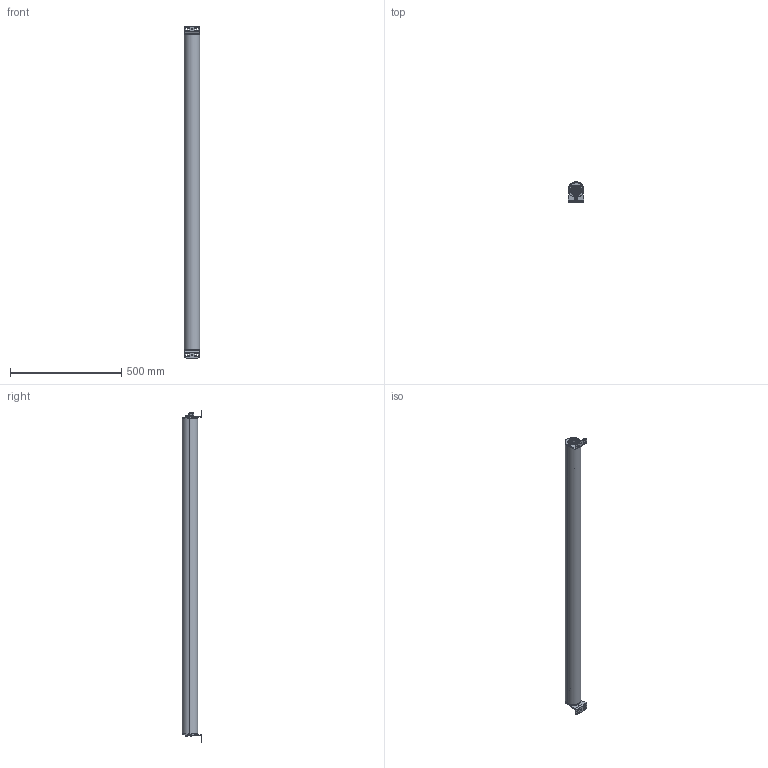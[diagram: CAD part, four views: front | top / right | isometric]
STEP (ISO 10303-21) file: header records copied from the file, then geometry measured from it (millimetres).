
FILE_DESCRIPTION((''),'2;1');
FILE_NAME('2009407_ASM','2020-12-04T13:56:43',('j.rink'),(''),'CREO PARAMETRIC BY PTC INC, 2019292','CREO PARAMETRIC BY PTC INC, 2019292','');
FILE_SCHEMA(('AUTOMOTIVE_DESIGN { 1 0 10303 214 1 1 1 1 }'));
Length unit declared in the file: millimetre
Products named in the file (5): 2009381; 2009383; 2009406; 2009384; 2009407_ASM
Assembly tree (5 placements, depth 2):
  2009407_ASM
    2009381  x2
    2009383
    2009406
    2009384
Bounding box: 70.98 x 88.92 x 1492.5 mm (x, y, z)
Volume: 1198822.7 mm3; surface area: 720398.5 mm2
Topology: 3 solids, 17 shells, 1290 faces, 3200 edges, 2062 vertices
Faces by surface type: plane 579, extrusion 254, cylinder 160, bspline 109, torus 94, cone 80, revolution 12, sphere 2
Entity records: 68195 total; most frequent: CARTESIAN_POINT 28152, ORIENTED_EDGE 5716, DIRECTION 4591, PRESENTATION_STYLE_ASSIGNMENT 3574, STYLED_ITEM 3049, CURVE_STYLE 3035, EDGE_CURVE 2887, VERTEX_POINT 1822
